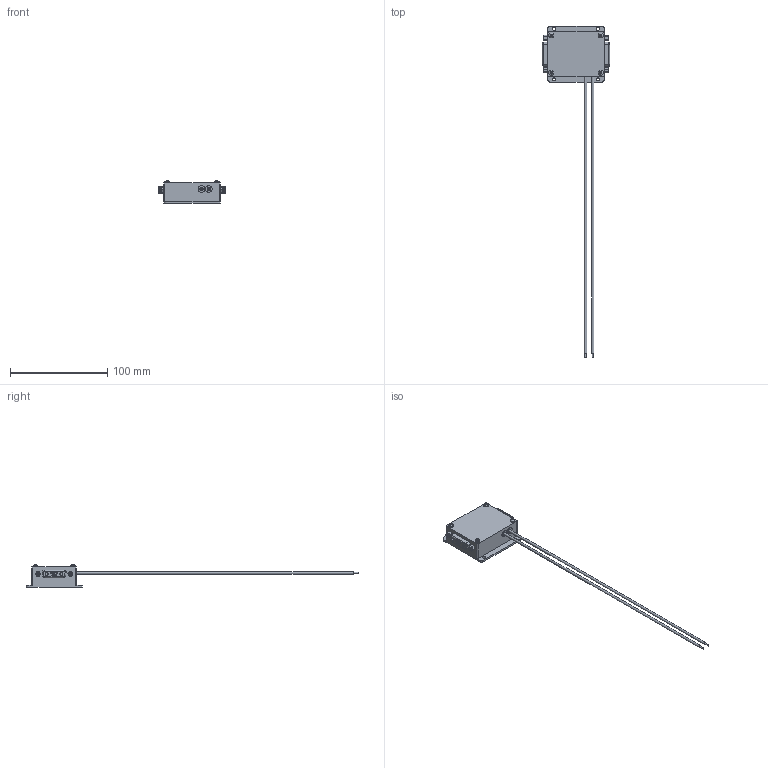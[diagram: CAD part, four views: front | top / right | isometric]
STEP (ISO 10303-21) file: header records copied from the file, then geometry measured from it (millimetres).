
FILE_DESCRIPTION(/* description */ (''),/* implementation_level */ '2;1');
FILE_NAME(/* name */ 'EIU-Mockup.step',/* time_stamp */ '2026-07-06T14:42:14+02:00',/* author */ (''),/* organization */ (''),/* preprocessor_version */ 'ST-DEVELOPER v20.1',/* originating_system */ 'Autodesk Translation Framework v15.8.0.0',/* authorisation */ '');
FILE_SCHEMA (('AUTOMOTIVE_DESIGN { 1 0 10303 214 3 1 1 }'));
Length unit declared in the file: millimetre
Products named in the file (1): 2026-07-06-14-42-13-721
Bounding box: 69.1 x 342 x 22.75 mm (x, y, z)
Volume: 61663.9 mm3; surface area: 17136.5 mm2
Topology: 1 solids, 1 shells, 344 faces, 803 edges, 479 vertices
Faces by surface type: cylinder 126, cone 102, plane 84, bspline 24, torus 8
Full cylindrical faces by diameter (mm): 1.05 x20, 1.3 x2, 2.47 x2, 3 x10, 3.2 x4, 3.5 x2, 5 x4, 7 x2
Entity records: 13002 total; most frequent: CARTESIAN_POINT 5485, ORIENTED_EDGE 1558, DIRECTION 1512, EDGE_CURVE 779, AXIS2_PLACEMENT_3D 602, VERTEX_POINT 479, EDGE_LOOP 394, FACE_OUTER_BOUND 344
